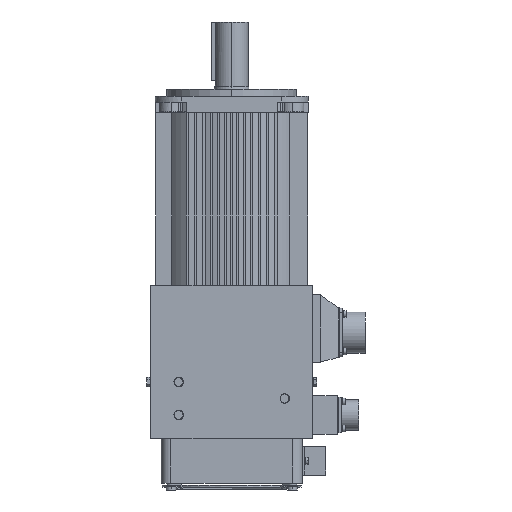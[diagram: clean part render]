
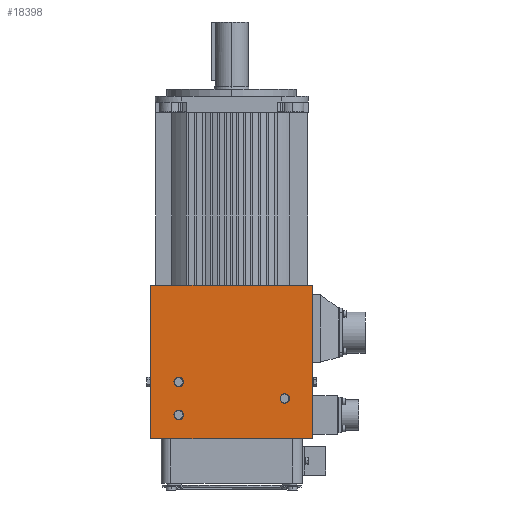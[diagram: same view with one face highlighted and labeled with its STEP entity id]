
A CAD part, left-side view. The second image highlights one B-rep face of the part: STEP entity #18398.
In plain terms, the highlighted planar face has unit normal (-1, 0, 0).
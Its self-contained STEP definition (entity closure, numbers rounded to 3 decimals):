
#18338 = ORIENTED_EDGE ( 'NONE', *, *, #18412, .F. ) ;
#18339 = EDGE_LOOP ( 'NONE', ( #18338, #18411 ) ) ;
#18349 = ORIENTED_EDGE ( 'NONE', *, *, #38165, .T. ) ;
#18351 = EDGE_LOOP ( 'NONE', ( #18383, #18413 ) ) ;
#18360 = ORIENTED_EDGE ( 'NONE', *, *, #18365, .T. ) ;
#18363 = ORIENTED_EDGE ( 'NONE', *, *, #38108, .F. ) ;
#18365 = EDGE_CURVE ( 'NONE', #38106, #38166, #21192, .T. ) ;
#18366 = EDGE_LOOP ( 'NONE', ( #18367, #18363, #18360, #18349 ) ) ;
#18367 = ORIENTED_EDGE ( 'NONE', *, *, #18368, .F. ) ;
#18368 = EDGE_CURVE ( 'NONE', #38551, #38244, #21188, .T. ) ;
#18383 = ORIENTED_EDGE ( 'NONE', *, *, #18394, .F. ) ;
#18394 = EDGE_CURVE ( 'NONE', #38257, #38254, #21206, .T. ) ;
#18398 = ADVANCED_FACE ( 'NONE', ( #21263, #21262, #21261, #21260 ), #21259, .T. ) ;
#18407 = ORIENTED_EDGE ( 'NONE', *, *, #38301, .F. ) ;
#18408 = EDGE_CURVE ( 'NONE', #38302, #38371, #21293, .T. ) ;
#18409 = ORIENTED_EDGE ( 'NONE', *, *, #18408, .F. ) ;
#18410 = EDGE_LOOP ( 'NONE', ( #18409, #18407 ) ) ;
#18411 = ORIENTED_EDGE ( 'NONE', *, *, #38320, .F. ) ;
#18412 = EDGE_CURVE ( 'NONE', #38321, #38318, #21288, .T. ) ;
#18413 = ORIENTED_EDGE ( 'NONE', *, *, #38256, .F. ) ;
#21185 = DIRECTION ( 'NONE',  ( 0., -1., 0. ) ) ;
#21186 = VECTOR ( 'NONE', #21185, 1000. ) ;
#21187 = CARTESIAN_POINT ( 'NONE',  ( -68.7, 68.7, 0. ) ) ;
#21188 = LINE ( 'NONE', #21187, #21186 ) ;
#21189 = DIRECTION ( 'NONE',  ( 0., -1., 0. ) ) ;
#21190 = VECTOR ( 'NONE', #21189, 1000. ) ;
#21191 = CARTESIAN_POINT ( 'NONE',  ( -68.7, 68.7, -130. ) ) ;
#21192 = LINE ( 'NONE', #21191, #21190 ) ;
#21202 = DIRECTION ( 'NONE',  ( 0., -1., 0. ) ) ;
#21203 = DIRECTION ( 'NONE',  ( -1., 0., 0. ) ) ;
#21204 = CARTESIAN_POINT ( 'NONE',  ( -68.7, 45., -110. ) ) ;
#21205 = AXIS2_PLACEMENT_3D ( 'NONE', #21204, #21203, #21202 ) ;
#21206 = CIRCLE ( 'NONE', #21205, 4. ) ;
#21255 = DIRECTION ( 'NONE',  ( 0., -1., 0. ) ) ;
#21256 = DIRECTION ( 'NONE',  ( -1., 0., 0. ) ) ;
#21257 = CARTESIAN_POINT ( 'NONE',  ( -68.7, 68.7, -130. ) ) ;
#21258 = AXIS2_PLACEMENT_3D ( 'NONE', #21257, #21256, #21255 ) ;
#21259 = PLANE ( 'NONE',  #21258 ) ;
#21260 = FACE_BOUND ( 'NONE', #18410, .T. ) ;
#21261 = FACE_BOUND ( 'NONE', #18339, .T. ) ;
#21262 = FACE_OUTER_BOUND ( 'NONE', #18366, .T. ) ;
#21263 = FACE_BOUND ( 'NONE', #18351, .T. ) ;
#21284 = DIRECTION ( 'NONE',  ( 0., -1., 0. ) ) ;
#21285 = DIRECTION ( 'NONE',  ( -1., 0., 0. ) ) ;
#21286 = CARTESIAN_POINT ( 'NONE',  ( -68.7, 45., -82. ) ) ;
#21287 = AXIS2_PLACEMENT_3D ( 'NONE', #21286, #21285, #21284 ) ;
#21288 = CIRCLE ( 'NONE', #21287, 4. ) ;
#21289 = DIRECTION ( 'NONE',  ( 0., -1., 0. ) ) ;
#21290 = DIRECTION ( 'NONE',  ( -1., 0., 0. ) ) ;
#21291 = CARTESIAN_POINT ( 'NONE',  ( -68.7, -45., -96. ) ) ;
#21292 = AXIS2_PLACEMENT_3D ( 'NONE', #21291, #21290, #21289 ) ;
#21293 = CIRCLE ( 'NONE', #21292, 4. ) ;
#21746 = DIRECTION ( 'NONE',  ( 0., 0., 1. ) ) ;
#21747 = VECTOR ( 'NONE', #21746, 1000. ) ;
#21748 = CARTESIAN_POINT ( 'NONE',  ( -68.7, 68.7, -130. ) ) ;
#21749 = LINE ( 'NONE', #21748, #21747 ) ;
#21750 = CARTESIAN_POINT ( 'NONE',  ( -68.7, 68.7, -130. ) ) ;
#21830 = CARTESIAN_POINT ( 'NONE',  ( -68.7, -68.7, -130. ) ) ;
#21831 = DIRECTION ( 'NONE',  ( 0., 0., 1. ) ) ;
#21832 = VECTOR ( 'NONE', #21831, 1000. ) ;
#21833 = CARTESIAN_POINT ( 'NONE',  ( -68.7, -68.7, -130. ) ) ;
#21834 = LINE ( 'NONE', #21833, #21832 ) ;
#21982 = CIRCLE ( 'NONE', #22044, 4. ) ;
#21983 = CARTESIAN_POINT ( 'NONE',  ( -68.7, 41., -110. ) ) ;
#22001 = CARTESIAN_POINT ( 'NONE',  ( -68.7, -68.7, 0. ) ) ;
#22040 = CARTESIAN_POINT ( 'NONE',  ( -68.7, 49., -110. ) ) ;
#22041 = DIRECTION ( 'NONE',  ( 0., -1., 0. ) ) ;
#22042 = DIRECTION ( 'NONE',  ( -1., 0., 0. ) ) ;
#22043 = CARTESIAN_POINT ( 'NONE',  ( -68.7, 45., -110. ) ) ;
#22044 = AXIS2_PLACEMENT_3D ( 'NONE', #22043, #22042, #22041 ) ;
#22077 = DIRECTION ( 'NONE',  ( 0., -1., 0. ) ) ;
#22078 = DIRECTION ( 'NONE',  ( -1., 0., 0. ) ) ;
#22079 = CARTESIAN_POINT ( 'NONE',  ( -68.7, -45., -96. ) ) ;
#22080 = AXIS2_PLACEMENT_3D ( 'NONE', #22079, #22078, #22077 ) ;
#22081 = CIRCLE ( 'NONE', #22080, 4. ) ;
#22109 = CARTESIAN_POINT ( 'NONE',  ( -68.7, 41., -82. ) ) ;
#22138 = CARTESIAN_POINT ( 'NONE',  ( -68.7, -41., -96. ) ) ;
#22163 = CARTESIAN_POINT ( 'NONE',  ( -68.7, 49., -82. ) ) ;
#22164 = DIRECTION ( 'NONE',  ( 0., -1., 0. ) ) ;
#22165 = DIRECTION ( 'NONE',  ( -1., 0., 0. ) ) ;
#22166 = CARTESIAN_POINT ( 'NONE',  ( -68.7, 45., -82. ) ) ;
#22167 = AXIS2_PLACEMENT_3D ( 'NONE', #22166, #22165, #22164 ) ;
#22168 = CIRCLE ( 'NONE', #22167, 4. ) ;
#22257 = CARTESIAN_POINT ( 'NONE',  ( -68.7, -49., -96. ) ) ;
#22598 = CARTESIAN_POINT ( 'NONE',  ( -68.7, 68.7, 0. ) ) ;
#38106 = VERTEX_POINT ( 'NONE', #21750 ) ;
#38108 = EDGE_CURVE ( 'NONE', #38106, #38551, #21749, .T. ) ;
#38165 = EDGE_CURVE ( 'NONE', #38166, #38244, #21834, .T. ) ;
#38166 = VERTEX_POINT ( 'NONE', #21830 ) ;
#38244 = VERTEX_POINT ( 'NONE', #22001 ) ;
#38254 = VERTEX_POINT ( 'NONE', #21983 ) ;
#38256 = EDGE_CURVE ( 'NONE', #38254, #38257, #21982, .T. ) ;
#38257 = VERTEX_POINT ( 'NONE', #22040 ) ;
#38301 = EDGE_CURVE ( 'NONE', #38371, #38302, #22081, .T. ) ;
#38302 = VERTEX_POINT ( 'NONE', #22138 ) ;
#38318 = VERTEX_POINT ( 'NONE', #22109 ) ;
#38320 = EDGE_CURVE ( 'NONE', #38318, #38321, #22168, .T. ) ;
#38321 = VERTEX_POINT ( 'NONE', #22163 ) ;
#38371 = VERTEX_POINT ( 'NONE', #22257 ) ;
#38551 = VERTEX_POINT ( 'NONE', #22598 ) ;
